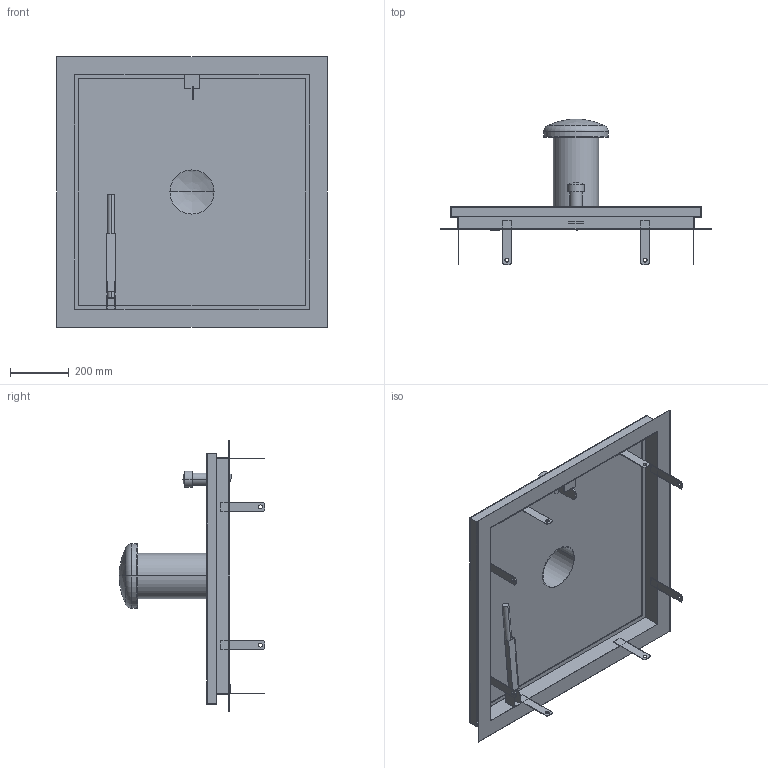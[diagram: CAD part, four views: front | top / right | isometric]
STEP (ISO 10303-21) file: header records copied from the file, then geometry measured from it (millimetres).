
FILE_DESCRIPTION((''),'2;1');
FILE_NAME('52335829','2024-12-19T07:30:30',('wep'),('HUBER SE'),'CREO PARAMETRIC BY PTC INC, 2022162','CREO PARAMETRIC BY PTC INC, 2022162','');
FILE_SCHEMA(('AUTOMOTIVE_DESIGN { 1 0 10303 214 1 1 1 1 }'));
Length unit declared in the file: millimetre
Products named in the file (1): 52335829
Bounding box: 920 x 495 x 920 mm (x, y, z)
Volume: 3308522.2 mm3; surface area: 3063120.9 mm2
Topology: 4 solids, 4 shells, 746 faces, 2024 edges, 1337 vertices
Faces by surface type: plane 418, extrusion 275, cylinder 43, torus 4, bspline 4, sphere 2
Entity records: 25312 total; most frequent: CARTESIAN_POINT 6818, ORIENTED_EDGE 4036, DIRECTION 2777, EDGE_CURVE 2018, VECTOR 1643, LINE 1368, VERTEX_POINT 1337, B_SPLINE_CURVE_WITH_KNOTS 825
